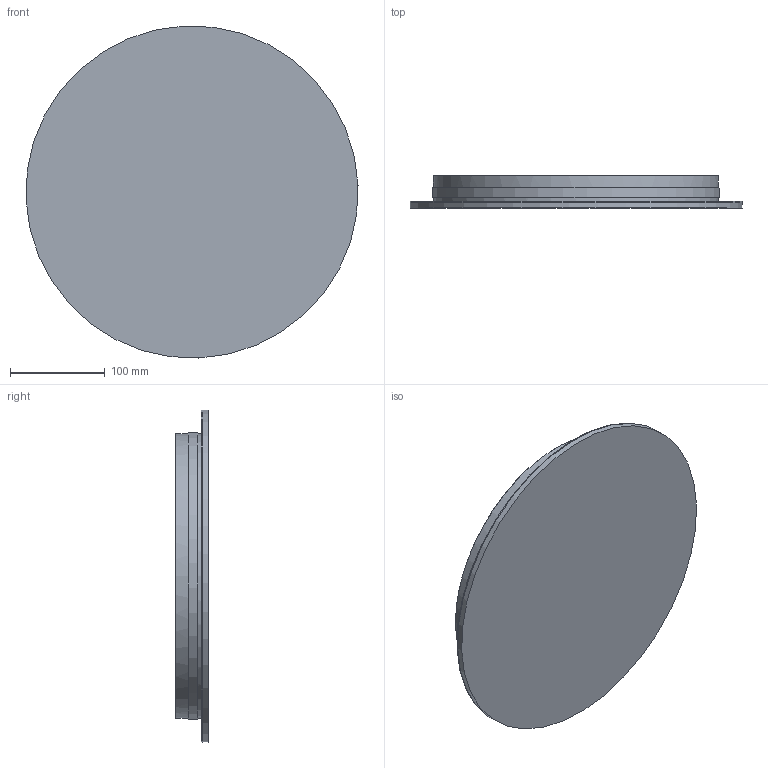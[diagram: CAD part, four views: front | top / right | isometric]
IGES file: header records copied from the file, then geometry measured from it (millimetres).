
Start section: SolidWorks IGES file using analytic representation for surfaces
Global section: file name: X:\PRODUKT\Modele 3D_WWW\_KOLEKCJE WWW\RING-LED\RING-LED-L-WOOD-10282\RING-LED-L-WOOD-10282.IGS; native system: SolidWorks 2021; preprocessor: SolidWorks 2021; author: gabriela.tworek; date: 221026.110117; units: millimetre
Bounding box: 349.7 x 34 x 349.7 mm (x, y, z)
Surface area: 578642.2 mm2 (no closed solid volume)
Topology: 0 solids, 0 shells, 15 faces, 39 edges, 36 vertices
Faces by surface type: bspline 10, revolution 5
